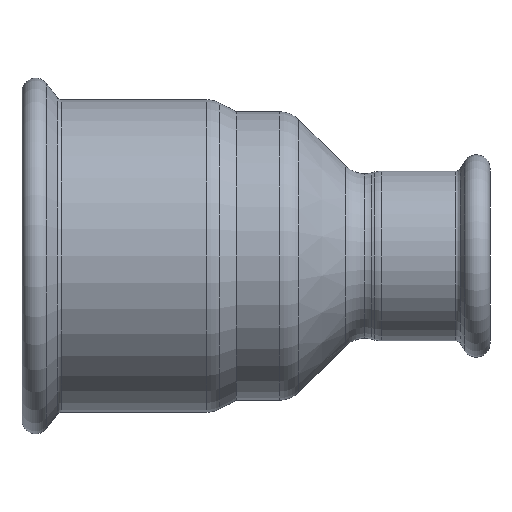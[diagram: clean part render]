
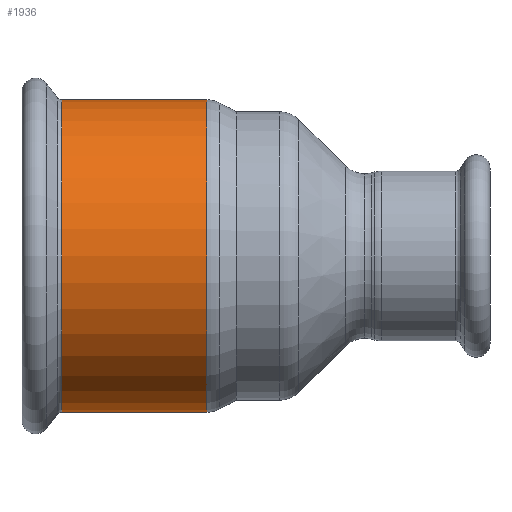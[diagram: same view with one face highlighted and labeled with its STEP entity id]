
A CAD part, front view. The second image highlights one B-rep face of the part: STEP entity #1936.
In plain terms, the highlighted cylindrical face has radius 28.7 mm (diameter 57.4 mm), a partial arc.
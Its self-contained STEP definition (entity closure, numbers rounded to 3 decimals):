
#64 = VERTEX_POINT ( 'NONE', #154 ) ;
#92 = AXIS2_PLACEMENT_3D ( 'NONE', #1521, #1770, #1565 ) ;
#113 = EDGE_CURVE ( 'NONE', #481, #726, #1934, .T. ) ;
#145 = CIRCLE ( 'NONE', #1016, 28.7 ) ;
#154 = CARTESIAN_POINT ( 'NONE',  ( -14.193, 0., 28.7 ) ) ;
#223 = CARTESIAN_POINT ( 'NONE',  ( -44.93, 0., 0. ) ) ;
#346 = DIRECTION ( 'NONE',  ( -1., 0., 0. ) ) ;
#370 = EDGE_CURVE ( 'NONE', #1365, #64, #145, .T. ) ;
#481 = VERTEX_POINT ( 'NONE', #3022 ) ;
#585 = CARTESIAN_POINT ( 'NONE',  ( -40.869, 0., -28.7 ) ) ;
#669 = EDGE_CURVE ( 'NONE', #1365, #726, #1907, .T. ) ;
#726 = VERTEX_POINT ( 'NONE', #585 ) ;
#732 = ORIENTED_EDGE ( 'NONE', *, *, #370, .T. ) ;
#752 = CARTESIAN_POINT ( 'NONE',  ( -44.93, 0., -28.7 ) ) ;
#804 = CYLINDRICAL_SURFACE ( 'NONE', #1581, 28.7 ) ;
#910 = CARTESIAN_POINT ( 'NONE',  ( -14.193, 0., 0. ) ) ;
#1009 = VECTOR ( 'NONE', #346, 1000. ) ;
#1016 = AXIS2_PLACEMENT_3D ( 'NONE', #910, #1560, #1135 ) ;
#1071 = VECTOR ( 'NONE', #2633, 1000. ) ;
#1135 = DIRECTION ( 'NONE',  ( 0., 0., -1. ) ) ;
#1157 = DIRECTION ( 'NONE',  ( -1., 0., 0. ) ) ;
#1169 = ORIENTED_EDGE ( 'NONE', *, *, #669, .F. ) ;
#1360 = ORIENTED_EDGE ( 'NONE', *, *, #113, .T. ) ;
#1365 = VERTEX_POINT ( 'NONE', #1824 ) ;
#1459 = ORIENTED_EDGE ( 'NONE', *, *, #1676, .T. ) ;
#1521 = CARTESIAN_POINT ( 'NONE',  ( -40.869, 0., 0. ) ) ;
#1560 = DIRECTION ( 'NONE',  ( -1., 0., 0. ) ) ;
#1565 = DIRECTION ( 'NONE',  ( 0., 0., 1. ) ) ;
#1581 = AXIS2_PLACEMENT_3D ( 'NONE', #223, #1157, #2053 ) ;
#1676 = EDGE_CURVE ( 'NONE', #64, #481, #2871, .T. ) ;
#1770 = DIRECTION ( 'NONE',  ( 1., 0., 0. ) ) ;
#1775 = FACE_OUTER_BOUND ( 'NONE', #2792, .T. ) ;
#1824 = CARTESIAN_POINT ( 'NONE',  ( -14.193, 0., -28.7 ) ) ;
#1907 = LINE ( 'NONE', #752, #1071 ) ;
#1934 = CIRCLE ( 'NONE', #92, 28.7 ) ;
#1936 = ADVANCED_FACE ( 'NONE', ( #1775 ), #804, .T. ) ;
#2053 = DIRECTION ( 'NONE',  ( 0., 0., 1. ) ) ;
#2633 = DIRECTION ( 'NONE',  ( -1., 0., 0. ) ) ;
#2657 = CARTESIAN_POINT ( 'NONE',  ( -44.93, 0., 28.7 ) ) ;
#2792 = EDGE_LOOP ( 'NONE', ( #1169, #732, #1459, #1360 ) ) ;
#2871 = LINE ( 'NONE', #2657, #1009 ) ;
#3022 = CARTESIAN_POINT ( 'NONE',  ( -40.869, 0., 28.7 ) ) ;
